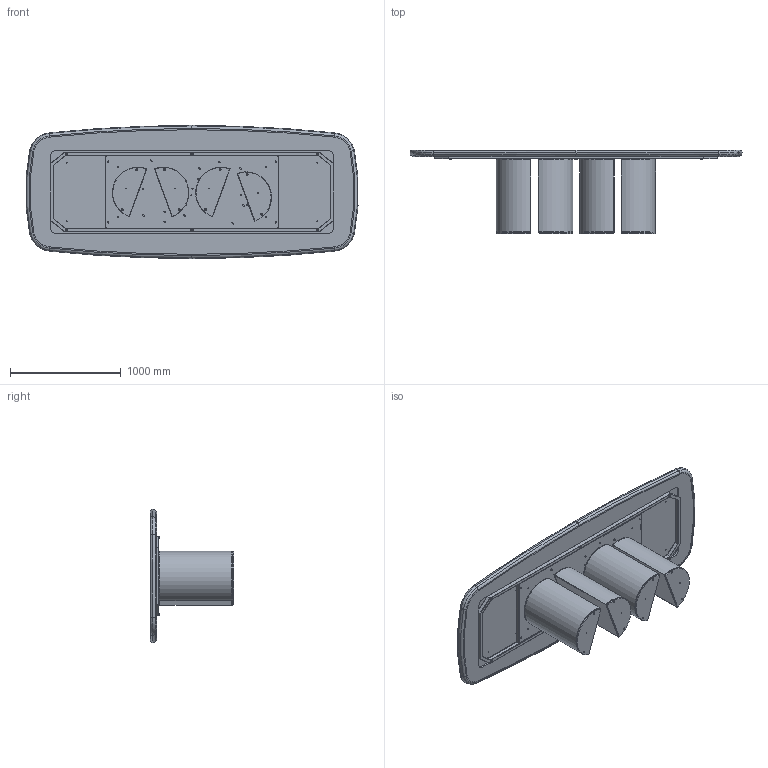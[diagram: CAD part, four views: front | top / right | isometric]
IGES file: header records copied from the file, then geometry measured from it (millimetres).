
Start section: SolidWorks IGES file using analytic representation for surfaces
Global section: file name: Y:\eforma\TECNICO\SOLIDWORKS\E-FORMA\1-TAVOLI\PLAI\08 modelli 3D web\PL244_Plai_300x120_King.IGS; native system: SolidWorks 2022; preprocessor: SolidWorks 2022; author: eforma.tech; date: 240802.083053; units: millimetre
Bounding box: 2991.72 x 750 x 1200 mm (x, y, z)
Volume: 163177379.2 mm3; surface area: 25407563.6 mm2
Topology: 44 solids, 44 shells, 1299 faces, 3030 edges, 1775 vertices
Faces by surface type: revolution 779, plane 520
